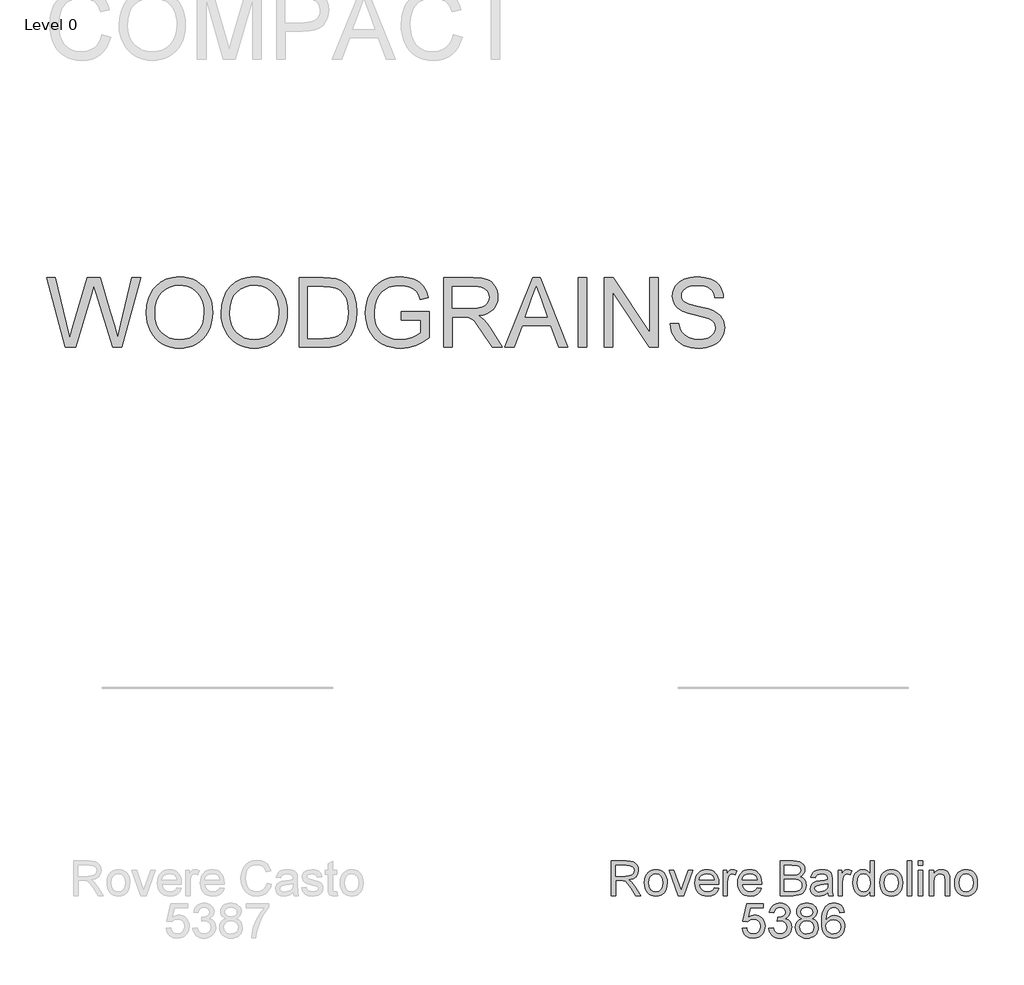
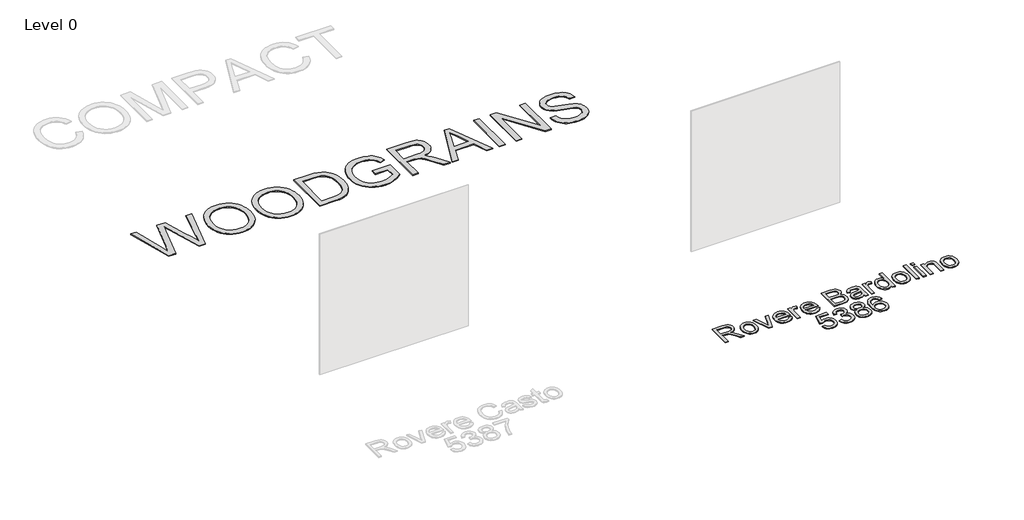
# One storey, part 8 of 16: 2 proxies.
"""IFC4 building model written with IfcOpenShell, lengths in millimetres."""

from ifc_helpers import new_model, si_unit, origin, origin_with_axes, place, context, project, spatial, polyline, outline, extrude, element, save

model = new_model("IFC4")

# Units and contexts
model_context = context("Model", 3, world=origin())
ifc_project = project(units=[si_unit("LENGTHUNIT", "METRE", prefix="MILLI")], contexts=[model_context])

# Site, building, storey
site = spatial("IfcSite", under=ifc_project)
building = spatial("IfcBuilding", under=site)
storey = spatial("IfcBuildingStorey", under=building, Name="Level 0", Elevation=0.0)

# Proxies
placement = place(None, origin())
element("IfcBuildingElementProxy", 1, Name="300mm Arial", ObjectType="300mm Arial", at=placement, inside=storey, context=model_context, shape_type="SweptSolid", body=[
    extrude(outline(polyline([(-6030.4904964, -7002.860494), (-6030.4904964, -6701.4915635), (-5900.6281521, -6701.4915635), (-5865.7253478, -6703.5241116), (-5840.3322931, -6709.6217556), (-5821.7726464, -6720.8789447), (-5807.3700663, -6738.3901276), (-5798.1270312, -6760.1043624), (-5795.0460195, -6783.9707069), (-5800.1503822, -6813.6587839), (-5815.4634702, -6838.2700893), (-5827.0632494, -6848.2994722), (-5841.4451361, -6856.3147012), (-5878.5552324, -6866.3026974), (-5857.1445003, -6882.4159288), (-5826.6102947, -6921.1906911), (-5776.3576141, -7002.860494), (-5820.1355716, -7002.860494), (-5859.3517922, -6940.3941312), (-5887.6787059, -6899.0441949), (-5907.5811218, -6879.509661), (-5925.496975, -6872.3359621), (-5947.3491655, -6871.0115869), (-5992.8193801, -6871.0115869), (-5992.8193801, -7002.860494), (-6030.4904964, -7002.860494)]), holes=[polyline([(-5992.8193801, -6833.3404706), (-5908.5008268, -6833.3404706), (-5884.2849945, -6832.0068984), (-5865.4954216, -6828.0061817), (-5851.3503588, -6821.0716061), (-5841.0680571, -6810.9364571), (-5834.8048661, -6798.6767896), (-5832.7171358, -6785.3686584), (-5836.6994584, -6766.9929528), (-5848.6464262, -6752.1857025), (-5869.2018327, -6742.4184355), (-5899.0094713, -6739.1626798), (-5992.8193801, -6739.1626798), (-5992.8193801, -6833.3404706)])]), origin_with_axes(), (0.0, 0.0, 1.0), 10.0),
    extrude(outline(polyline([(-5743.2482346, -6892.2015898), (-5741.211088, -6863.5389839), (-5735.0996484, -6838.8403064), (-5724.9139156, -6818.1055575), (-5710.6538898, -6801.334737), (-5696.2972949, -6790.6155754), (-5680.450778, -6782.9590314), (-5663.114339, -6778.3651049), (-5644.2879779, -6776.8337961), (-5623.5049444, -6778.698498), (-5604.7130722, -6784.2926036), (-5587.9123614, -6793.6161129), (-5573.1028118, -6806.669026), (-5561.015589, -6823.0098843), (-5552.3818584, -6842.1972296), (-5547.2016201, -6864.2310619), (-5545.474874, -6889.1113811), (-5548.5282945, -6927.1687735), (-5557.6885562, -6956.1394806), (-5572.6889445, -6977.8353213), (-5593.2627451, -6994.0681143), (-5617.6993067, -7004.1940662), (-5644.2879779, -7007.5693835), (-5665.374514, -7005.7115794), (-5684.3411301, -7000.1381672), (-5701.1878262, -6990.8491468), (-5715.9146023, -6977.8445183), (-5727.8730664, -6961.3450108), (-5736.4148265, -6941.5713536), (-5741.5398825, -6918.5235466), (-5743.2482346, -6892.2015898)]), holes=[polyline([(-5705.5771183, -6892.1280134), (-5701.2177166, -6926.2214773), (-5688.1395117, -6950.5108861), (-5668.4578249, -6965.0514219), (-5644.2879779, -6969.8982672), (-5620.2284954, -6965.0238308), (-5600.5835968, -6950.4005215), (-5587.5053919, -6925.789216), (-5583.1459903, -6890.950791), (-5587.5329831, -6857.8506085), (-5600.6939614, -6833.8922936), (-5620.3664511, -6819.3517577), (-5644.2879779, -6814.5049125), (-5668.4578249, -6819.3333636), (-5688.1395117, -6833.8187172), (-5701.2177166, -6858.0529436), (-5705.5771183, -6892.1280134)])]), origin_with_axes(), (0.0, 0.0, 1.0), 10.0),
    extrude(outline(polyline([(-5448.7954856, -7002.860494), (-5526.6393158, -6781.5426857), (-5486.7609075, -6781.5426857), (-5439.5984357, -6914.1273567), (-5425.3981907, -6958.7146546), (-5411.4922513, -6916.6289543), (-5364.0354739, -6781.5426857), (-5324.1570657, -6781.5426857), (-5401.0444026, -7002.860494), (-5448.7954856, -7002.860494)])), origin_with_axes(), (0.0, 0.0, 1.0), 10.0),
    extrude(outline(polyline([(-5136.2429425, -6936.9360404), (-5099.3075902, -6941.64493), (-5112.6157214, -6969.4752029), (-5133.8517096, -6990.2789297), (-5162.5373081, -7003.2467701), (-5198.1942705, -7007.5693835), (-5221.5685728, -7005.7046817), (-5242.3952922, -7000.1105761), (-5260.6744289, -6990.7870668), (-5276.4059827, -6977.7341537), (-5289.0565248, -6961.3151204), (-5298.0926263, -6941.8932503), (-5303.5142872, -6919.4685435), (-5305.3215075, -6894.0409998), (-5303.4958931, -6867.7512327), (-5298.0190499, -6844.5792656), (-5288.8909779, -6824.5250983), (-5276.1116771, -6807.5887309), (-5260.42151, -6794.133447), (-5242.5608391, -6784.5225298), (-5222.5296645, -6778.7559796), (-5200.3279861, -6776.8337961), (-5178.8413783, -6778.751381), (-5159.4103112, -6784.5041357), (-5142.0347847, -6794.0920602), (-5126.7147988, -6807.5151545), (-5114.2091103, -6824.4147337), (-5105.2764756, -6844.4321128), (-5099.9168948, -6867.5672917), (-5098.1303678, -6893.8202706), (-5098.351097, -6903.9738137), (-5267.6503912, -6903.9738137), (-5261.1296828, -6932.1719686), (-5245.9821417, -6952.902119), (-5224.1207541, -6965.6492302), (-5197.4585065, -6969.8982672), (-5177.4089378, -6967.9300985), (-5160.5231542, -6962.0255925), (-5146.8011558, -6951.8168672), (-5136.2429425, -6936.9360404)]), holes=[polyline([(-5267.6503912, -6866.3026974), (-5135.8014841, -6866.3026974), (-5140.8966498, -6846.4002814), (-5150.8846459, -6832.1632482), (-5172.847201, -6818.9194964), (-5200.4751389, -6814.5049125), (-5225.8681936, -6818.0273826), (-5246.8650585, -6828.5947929), (-5261.4607766, -6845.0667092), (-5267.6503912, -6866.3026974)])]), origin_with_axes(), (0.0, 0.0, 1.0), 10.0),
    extrude(outline(polyline([(-5060.4592515, -7002.860494), (-5060.4592515, -6781.5426857), (-5027.4970247, -6781.5426857), (-5027.4970247, -6814.2841833), (-5015.3201307, -6795.3014723), (-5004.0997299, -6784.1178596), (-4992.8425408, -6778.654812), (-4980.5552822, -6776.8337961), (-4961.7933004, -6779.7400639), (-4942.7370131, -6788.4588672), (-4955.3185773, -6822.2304343), (-4968.5623291, -6816.4362929), (-4981.8060809, -6814.5049125), (-4993.0540729, -6816.3627165), (-5003.1064485, -6821.9361288), (-5011.2274435, -6830.8020848), (-5016.6812941, -6842.5375205), (-5021.2614249, -6863.5803706), (-5022.7881352, -6886.5362071), (-5022.7881352, -7002.860494), (-5060.4592515, -7002.860494)])), origin_with_axes(), (0.0, 0.0, 1.0), 10.0),
    extrude(outline(polyline([(-4764.240669, -6936.9360404), (-4727.3053167, -6941.64493), (-4740.6134479, -6969.4752029), (-4761.849436, -6990.2789297), (-4790.5350346, -7003.2467701), (-4826.191997, -7007.5693835), (-4849.5662993, -7005.7046817), (-4870.3930187, -7000.1105761), (-4888.6721553, -6990.7870668), (-4904.4037092, -6977.7341537), (-4917.0542513, -6961.3151204), (-4926.0903528, -6941.8932503), (-4931.5120137, -6919.4685435), (-4933.319234, -6894.0409998), (-4931.4936196, -6867.7512327), (-4926.0167764, -6844.5792656), (-4916.8887044, -6824.5250983), (-4904.1094036, -6807.5887309), (-4888.4192365, -6794.133447), (-4870.5585656, -6784.5225298), (-4850.527391, -6778.7559796), (-4828.3257126, -6776.8337961), (-4806.8391048, -6778.751381), (-4787.4080376, -6784.5041357), (-4770.0325112, -6794.0920602), (-4754.7125253, -6807.5151545), (-4742.2068367, -6824.4147337), (-4733.2742021, -6844.4321128), (-4727.9146212, -6867.5672917), (-4726.1280943, -6893.8202706), (-4726.3488235, -6903.9738137), (-4895.6481177, -6903.9738137), (-4889.1274093, -6932.1719686), (-4873.9798682, -6952.902119), (-4852.1184806, -6965.6492302), (-4825.456233, -6969.8982672), (-4805.4066643, -6967.9300985), (-4788.5208807, -6962.0255925), (-4774.7988823, -6951.8168672), (-4764.240669, -6936.9360404)]), holes=[polyline([(-4895.6481177, -6866.3026974), (-4763.7992106, -6866.3026974), (-4768.8943762, -6846.4002814), (-4778.8823724, -6832.1632482), (-4800.8449275, -6818.9194964), (-4828.4728654, -6814.5049125), (-4853.8659201, -6818.0273826), (-4874.8627849, -6828.5947929), (-4889.4585031, -6845.0667092), (-4895.6481177, -6866.3026974)])]), origin_with_axes(), (0.0, 0.0, 1.0), 10.0),
    extrude(outline(polyline([(-4566.02585, -7002.860494), (-4566.02585, -6701.4915635), (-4451.0259383, -6701.4915635), (-4419.3972838, -6703.7080526), (-4394.7032048, -6710.3575196), (-4375.7756762, -6721.6055116), (-4361.4466725, -6737.6175755), (-4352.4243665, -6756.4531336), (-4349.4169312, -6776.1716086), (-4351.94612, -6794.317388), (-4359.5336861, -6811.3779155), (-4372.234812, -6826.3047274), (-4390.1046799, -6838.0493601), (-4368.7583271, -6849.1961846), (-4352.9853866, -6866.1555446), (-4343.2457108, -6887.8054), (-4339.9991522, -6913.0237108), (-4342.2156412, -6934.0389697), (-4348.8651082, -6953.5275184), (-4358.7887251, -6970.1006023), (-4370.8276634, -6982.3694669), (-4385.5705343, -6991.253817), (-4403.6059491, -6997.6733578), (-4451.9088551, -7002.860494), (-4566.02585, -7002.860494)]), holes=[polyline([(-4528.3547337, -6823.9226915), (-4459.5608006, -6823.9226915), (-4419.3880867, -6820.68533), (-4405.3257975, -6815.1027207), (-4395.2182396, -6806.7426024), (-4389.1205956, -6795.7337336), (-4387.0880475, -6782.2048733), (-4388.9826398, -6769.071486), (-4394.6664166, -6757.630356), (-4403.8818606, -6748.7000206), (-4416.3714544, -6743.0990172), (-4464.7847249, -6739.1626798), (-4528.3547337, -6739.1626798), (-4528.3547337, -6823.9226915)]), polyline([(-4528.3547337, -6965.1893777), (-4451.0995147, -6965.1893777), (-4423.1404831, -6963.7178497), (-4399.4856708, -6955.5140812), (-4383.8138978, -6938.7754504), (-4379.2061758, -6926.9480443), (-4377.6702685, -6913.3915928), (-4379.4728902, -6897.6462434), (-4384.8807556, -6884.1081859), (-4394.3261258, -6873.5223815), (-4408.2412623, -6866.6337912), (-4427.9505402, -6862.8538037), (-4454.7783347, -6861.5938078), (-4528.3547337, -6861.5938078), (-4528.3547337, -6965.1893777)])]), origin_with_axes(), (0.0, 0.0, 1.0), 10.0),
    extrude(outline(polyline([(-4151.6435706, -6974.6071568), (-4169.6421972, -6990.0398064), (-4188.1742527, -7000.1381672), (-4207.6628014, -7005.7115794), (-4228.5309076, -7007.5693835), (-4260.0124094, -7003.0996173), (-4283.2349603, -6989.6903186), (-4297.554767, -6969.3280501), (-4302.3280359, -6943.9993748), (-4300.5254141, -6928.3827841), (-4295.1175487, -6914.2009331), (-4286.7758245, -6902.0608273), (-4276.171626, -6892.5694718), (-4249.7944869, -6880.2086368), (-4217.2001422, -6874.5432541), (-4178.6828973, -6868.5835657), (-4151.8642998, -6861.5938078), (-4151.6435706, -6853.2060983), (-4154.2371387, -6836.3938912), (-4162.0178429, -6825.3942195), (-4179.4186613, -6817.2272392), (-4203.6620847, -6814.5049125), (-4226.1028865, -6816.3167313), (-4241.7746594, -6821.7521878), (-4252.4616314, -6831.8045633), (-4259.94803, -6847.4671392), (-4297.6191463, -6842.7582497), (-4291.0800438, -6822.156858), (-4281.3219739, -6805.9700502), (-4267.4344286, -6793.590821), (-4248.5069, -6784.4121652), (-4225.3579254, -6778.7283884), (-4198.8060424, -6776.8337961), (-4173.3394113, -6778.5076592), (-4153.1518868, -6783.5292485), (-4137.9307693, -6791.0800264), (-4127.3633589, -6800.3414556), (-4120.3552069, -6811.7917827), (-4115.8118643, -6825.9092543), (-4113.9724543, -6858.8714811), (-4113.9724543, -6905.7396473), (-4112.0594679, -6971.1858542), (-4104.5546752, -7002.860494), (-4142.2257916, -7002.860494), (-4151.6435706, -6974.6071568)]), holes=[polyline([(-4151.6435706, -6899.2649241), (-4212.4176762, -6910.8164188), (-4244.82808, -6916.9232599), (-4259.5065716, -6926.8560738), (-4264.6569195, -6941.3506244), (-4261.8518193, -6952.5526311), (-4253.4365187, -6961.7312869), (-4239.5949586, -6967.8565221), (-4220.5110801, -6969.8982672), (-4200.2775704, -6967.64499), (-4182.3985054, -6960.8851583), (-4167.9039548, -6950.9247533), (-4157.8239881, -6939.069756), (-4153.3542219, -6926.8560738), (-4151.8642998, -6909.933502), (-4151.6435706, -6899.2649241)])]), origin_with_axes(), (0.0, 0.0, 1.0), 10.0),
    extrude(outline(polyline([(-4062.1746694, -7002.860494), (-4062.1746694, -6781.5426857), (-4029.2124426, -6781.5426857), (-4029.2124426, -6814.2841833), (-4017.0355486, -6795.3014723), (-4005.8151477, -6784.1178596), (-3994.5579587, -6778.654812), (-3982.2707, -6776.8337961), (-3963.5087183, -6779.7400639), (-3944.4524309, -6788.4588672), (-3957.0339952, -6822.2304343), (-3970.277747, -6816.4362929), (-3983.5214988, -6814.5049125), (-3994.7694908, -6816.3627165), (-4004.8218664, -6821.9361288), (-4012.9428614, -6830.8020848), (-4018.396712, -6842.5375205), (-4022.9768428, -6863.5803706), (-4024.5035531, -6886.5362071), (-4024.5035531, -7002.860494), (-4062.1746694, -7002.860494)])), origin_with_axes(), (0.0, 0.0, 1.0), 10.0),
    extrude(outline(polyline([(-3784.3501866, -7002.860494), (-3784.3501866, -6967.3230932), (-3795.6211713, -6984.9308452), (-3809.2741918, -6997.507811), (-3825.3092483, -7005.0539904), (-3843.7263407, -7007.5693835), (-3868.0801287, -7003.9273518), (-3890.3737777, -6993.0012565), (-3909.246124, -6975.5544529), (-3923.3360044, -6952.350296), (-3932.10999, -6924.3268851), (-3935.0346519, -6892.422319), (-3932.3399163, -6860.9132261), (-3924.2557094, -6832.4575538), (-3910.7912284, -6808.6739828), (-3891.9556702, -6791.181194), (-3869.1745777, -6780.4206456), (-3843.8734935, -6776.8337961), (-3825.4426055, -6779.3997731), (-3809.1454331, -6787.0977038), (-3795.3314642, -6798.8975188), (-3784.3501866, -6813.7691485), (-3784.3501866, -6701.4915635), (-3746.6790703, -6701.4915635), (-3746.6790703, -7002.860494), (-3784.3501866, -7002.860494)]), holes=[polyline([(-3897.3635356, -6892.2751662), (-3893.1144985, -6926.350236), (-3880.3673874, -6950.5844625), (-3861.8445289, -6965.069816), (-3840.2682499, -6969.8982672), (-3818.7011679, -6965.2905452), (-3800.647359, -6951.4673793), (-3788.4244797, -6928.1712519), (-3784.3501866, -6895.1446458), (-3788.4980561, -6859.037028), (-3800.9416646, -6834.0026582), (-3819.455326, -6819.3793489), (-3841.8133543, -6814.5049125), (-3863.6103625, -6819.1862108), (-3881.4710334, -6833.230106), (-3893.39041, -6857.3539678), (-3897.3635356, -6892.2751662)])]), origin_with_axes(), (0.0, 0.0, 1.0), 10.0),
    extrude(outline(polyline([(-3699.590175, -6892.2015898), (-3697.5530284, -6863.5389839), (-3691.4415888, -6838.8403064), (-3681.255856, -6818.1055575), (-3666.9958302, -6801.334737), (-3652.6392353, -6790.6155754), (-3636.7927184, -6782.9590314), (-3619.4562794, -6778.3651049), (-3600.6299183, -6776.8337961), (-3579.8468848, -6778.698498), (-3561.0550126, -6784.2926036), (-3544.2543018, -6793.6161129), (-3529.4447522, -6806.669026), (-3517.3575294, -6823.0098843), (-3508.7237988, -6842.1972296), (-3503.5435605, -6864.2310619), (-3501.8168143, -6889.1113811), (-3504.8702349, -6927.1687735), (-3514.0304966, -6956.1394806), (-3529.0308849, -6977.8353213), (-3549.6046855, -6994.0681143), (-3574.0412471, -7004.1940662), (-3600.6299183, -7007.5693835), (-3621.7164544, -7005.7115794), (-3640.6830705, -7000.1381672), (-3657.5297666, -6990.8491468), (-3672.2565427, -6977.8445183), (-3684.2150068, -6961.3450108), (-3692.7567669, -6941.5713536), (-3697.8818229, -6918.5235466), (-3699.590175, -6892.2015898)]), holes=[polyline([(-3661.9190586, -6892.1280134), (-3657.559657, -6926.2214773), (-3644.4814521, -6950.5108861), (-3624.7997653, -6965.0514219), (-3600.6299183, -6969.8982672), (-3576.5704358, -6965.0238308), (-3556.9255372, -6950.4005215), (-3543.8473323, -6925.789216), (-3539.4879307, -6890.950791), (-3543.8749234, -6857.8506085), (-3557.0359018, -6833.8922936), (-3576.7083915, -6819.3517577), (-3600.6299183, -6814.5049125), (-3624.7997653, -6819.3333636), (-3644.4814521, -6833.8187172), (-3657.559657, -6858.0529436), (-3661.9190586, -6892.1280134)])]), origin_with_axes(), (0.0, 0.0, 1.0), 10.0),
    extrude(outline(polyline([(-3459.4368085, -7002.860494), (-3459.4368085, -6701.4915635), (-3421.7656922, -6701.4915635), (-3421.7656922, -7002.860494), (-3459.4368085, -7002.860494)])), origin_with_axes(), (0.0, 0.0, 1.0), 10.0),
    extrude(outline(polyline([(-3365.2590177, -6739.1626798), (-3365.2590177, -6701.4915635), (-3327.5879014, -6701.4915635), (-3327.5879014, -6739.1626798), (-3365.2590177, -6739.1626798)])), origin_with_axes(), (0.0, 0.0, 1.0), 10.0),
    extrude(outline(polyline([(-3365.2590177, -7002.860494), (-3365.2590177, -6781.5426857), (-3327.5879014, -6781.5426857), (-3327.5879014, -7002.860494), (-3365.2590177, -7002.860494)])), origin_with_axes(), (0.0, 0.0, 1.0), 10.0),
    extrude(outline(polyline([(-3271.081227, -7002.860494), (-3271.081227, -6781.5426857), (-3233.4101107, -6781.5426857), (-3233.4101107, -6812.4447733), (-3220.3227087, -6796.8649708), (-3204.6049504, -6785.7365404), (-3186.2568359, -6779.0594822), (-3165.2783652, -6776.8337961), (-3146.7095215, -6778.6272209), (-3129.7041762, -6784.0074951), (-3115.5223253, -6792.303234), (-3105.4239645, -6802.8430532), (-3094.1299873, -6830.5445674), (-3092.1434245, -6866.964885), (-3092.1434245, -7002.860494), (-3129.8145408, -7002.860494), (-3129.8145408, -6872.0416565), (-3134.1555484, -6838.7115477), (-3140.1612219, -6828.7879309), (-3149.4962276, -6821.0900002), (-3161.4615895, -6816.1511844), (-3175.3583318, -6814.5049125), (-3197.4220545, -6818.2021265), (-3216.2300215, -6829.2937687), (-3223.7463105, -6838.3482643), (-3229.1150884, -6850.7228949), (-3233.4101107, -6885.4325611), (-3233.4101107, -7002.860494), (-3271.081227, -7002.860494)])), origin_with_axes(), (0.0, 0.0, 1.0), 10.0),
    extrude(outline(polyline([(-3049.7634187, -6892.2015898), (-3047.7262721, -6863.5389839), (-3041.6148325, -6838.8403064), (-3031.4290997, -6818.1055575), (-3017.1690739, -6801.334737), (-3002.812479, -6790.6155754), (-2986.9659621, -6782.9590314), (-2969.6295231, -6778.3651049), (-2950.803162, -6776.8337961), (-2930.0201285, -6778.698498), (-2911.2282563, -6784.2926036), (-2894.4275455, -6793.6161129), (-2879.6179959, -6806.669026), (-2867.5307731, -6823.0098843), (-2858.8970425, -6842.1972296), (-2853.7168042, -6864.2310619), (-2851.9900581, -6889.1113811), (-2855.0434786, -6927.1687735), (-2864.2037403, -6956.1394806), (-2879.2041287, -6977.8353213), (-2899.7779292, -6994.0681143), (-2924.2144908, -7004.1940662), (-2950.803162, -7007.5693835), (-2971.8896981, -7005.7115794), (-2990.8563142, -7000.1381672), (-3007.7030103, -6990.8491468), (-3022.4297864, -6977.8445183), (-3034.3882505, -6961.3450108), (-3042.9300106, -6941.5713536), (-3048.0550667, -6918.5235466), (-3049.7634187, -6892.2015898)]), holes=[polyline([(-3012.0923024, -6892.1280134), (-3007.7329007, -6926.2214773), (-2994.6546958, -6950.5108861), (-2974.9730091, -6965.0514219), (-2950.803162, -6969.8982672), (-2926.7436795, -6965.0238308), (-2907.0987809, -6950.4005215), (-2894.020576, -6925.789216), (-2889.6611744, -6890.950791), (-2894.0481672, -6857.8506085), (-2907.2091455, -6833.8922936), (-2926.8816352, -6819.3517577), (-2950.803162, -6814.5049125), (-2974.9730091, -6819.3333636), (-2994.6546958, -6833.8187172), (-3007.7329007, -6858.0529436), (-3012.0923024, -6892.1280134)])]), origin_with_axes(), (0.0, 0.0, 1.0), 10.0),
    extrude(outline(polyline([(-4893.2936729, -7288.7338254), (-4855.6225566, -7284.0249358), (-4848.7063751, -7306.6404815), (-4836.6398456, -7322.8364863), (-4819.4781506, -7332.5761621), (-4797.2764722, -7335.8227207), (-4770.2739337, -7331.3069693), (-4750.040424, -7317.7597148), (-4737.4036774, -7296.7444558), (-4733.1914286, -7269.8246908), (-4737.136963, -7244.4776213), (-4748.9735662, -7225.0902402), (-4768.7932087, -7212.7845875), (-4796.687861, -7208.6827032), (-4814.9623991, -7210.3197781), (-4829.7604523, -7215.2310027), (-4850.9136671, -7232.2271509), (-4888.5847834, -7227.5182614), (-4855.6225566, -7072.1249066), (-4709.6469809, -7072.1249066), (-4709.6469809, -7109.7960229), (-4825.1619274, -7109.7960229), (-4841.2751588, -7192.790201), (-4814.3645908, -7176.4562404), (-4786.1664359, -7171.0115869), (-4767.8206207, -7172.6992456), (-4750.969326, -7177.7622215), (-4735.612552, -7186.2005148), (-4721.7502986, -7198.0141254), (-4710.2746796, -7212.4810848), (-4702.0778089, -7228.8794248), (-4697.1596864, -7247.2091452), (-4695.5203123, -7267.470246), (-4701.4248183, -7305.1413624), (-4708.8054508, -7321.9351754), (-4719.1383364, -7337.3678251), (-4734.7917153, -7353.1729553), (-4753.0570563, -7364.4623341), (-4773.9343596, -7371.2359613), (-4797.423625, -7373.4938371), (-4834.4233566, -7367.6904986), (-4850.1020274, -7360.4363255), (-4863.8999015, -7350.2804832), (-4875.380119, -7337.7288093), (-4884.1058201, -7323.2871418), (-4893.2936729, -7288.7338254)])), origin_with_axes(), (0.0, 0.0, 1.0), 10.0),
    extrude(outline(polyline([(-4662.5580855, -7288.7338254), (-4624.8869692, -7284.0249358), (-4616.4532745, -7307.6981422), (-4604.1016365, -7323.6826149), (-4587.22505, -7332.7876943), (-4565.2165096, -7335.8227207), (-4539.3911935, -7331.6472601), (-4519.4519894, -7319.1208782), (-4506.7048783, -7300.4324728), (-4502.4558412, -7277.7709419), (-4506.6680901, -7256.2590422), (-4519.3048366, -7238.8122386), (-4538.4347004, -7227.2515469), (-4562.1263008, -7223.397983), (-4588.5402281, -7227.5182614), (-4584.3463734, -7189.8471451), (-4578.3131086, -7190.2886035), (-4555.7435482, -7187.5846708), (-4535.5652208, -7179.4728728), (-4521.3281876, -7165.7508744), (-4516.5825098, -7146.2163404), (-4520.0222065, -7129.9467592), (-4530.3412965, -7116.7489926), (-4546.0866459, -7108.0025982), (-4565.8051208, -7105.0871334), (-4585.5603839, -7108.0301893), (-4601.7104035, -7116.8593572), (-4613.5010215, -7131.574637), (-4620.1780797, -7152.1760288), (-4657.849196, -7147.4671392), (-4646.7575538, -7113.6403898), (-4627.0206848, -7088.3852908), (-4600.0181463, -7072.6583355), (-4567.129496, -7067.4160171), (-4543.4470925, -7070.0003881), (-4521.6960696, -7077.7535011), (-4503.3571521, -7089.9855775), (-4489.9110652, -7106.0068384), (-4481.6613115, -7124.4653175), (-4478.9113935, -7144.0090485), (-4481.5233557, -7162.2192072), (-4489.3592422, -7178.7371088), (-4502.3086884, -7192.8085951), (-4520.2613298, -7203.6795081), (-4496.6800939, -7213.2076518), (-4479.2056991, -7229.4312477), (-4468.3899685, -7251.4673793), (-4464.7847249, -7278.4331295), (-4466.5873467, -7297.5445992), (-4471.995212, -7315.1477526), (-4481.0083209, -7331.2425899), (-4493.6266733, -7345.829111), (-4508.9995422, -7357.9324287), (-4526.2762004, -7366.5776555), (-4545.4566479, -7371.7647917), (-4566.5408848, -7373.4938371), (-4585.5971721, -7372.0177105), (-4602.9612023, -7367.589331), (-4618.6329753, -7360.2086985), (-4632.6124911, -7349.875813), (-4644.3341312, -7337.1976797), (-4653.232277, -7322.781304), (-4659.3069284, -7306.6266859), (-4662.5580855, -7288.7338254)])), origin_with_axes(), (0.0, 0.0, 1.0), 10.0),
    extrude(outline(polyline([(-4376.9345045, -7202.7965913), (-4397.1036349, -7192.8637774), (-4411.2578946, -7179.3992964), (-4419.618013, -7162.6790597), (-4422.4047191, -7142.9789789), (-4420.8872058, -7127.6153071), (-4416.3346662, -7113.5300252), (-4408.7471, -7100.7231332), (-4398.1245074, -7089.1946312), (-4384.9773246, -7079.6664875), (-4369.8159879, -7072.8606706), (-4333.4508526, -7067.4160171), (-4296.8649882, -7072.9894293), (-4281.5381046, -7079.9561946), (-4268.1885867, -7089.709666), (-4257.372856, -7101.4634957), (-4249.6473341, -7114.4313361), (-4245.012021, -7128.613187), (-4243.4669166, -7144.0090485), (-4246.2168345, -7163.0745329), (-4254.4665883, -7179.509661), (-4268.3081483, -7192.8913686), (-4287.8334852, -7202.7965913), (-4264.6477225, -7214.7435591), (-4247.771136, -7232.3375155), (-4237.4796372, -7254.732332), (-4234.0491375, -7281.0818799), (-4235.7505918, -7299.8714528), (-4240.8549545, -7317.0975272), (-4249.3622256, -7332.7601031), (-4261.2724052, -7346.8591806), (-4275.9600938, -7358.5118428), (-4292.7998922, -7366.8351729), (-4311.7918002, -7371.829171), (-4332.9358179, -7373.4938371), (-4354.0798355, -7371.8222732), (-4373.0717435, -7366.8075818), (-4389.9115419, -7358.4497627), (-4404.5992305, -7346.748816), (-4416.5094101, -7332.5508703), (-4425.0166812, -7316.702054), (-4430.1210439, -7299.2023674), (-4431.8224982, -7280.0518103), (-4428.2540428, -7252.6813898), (-4417.5486767, -7230.1670117), (-4400.258223, -7213.2812282), (-4376.9345045, -7202.7965913)]), holes=[polyline([(-4394.1513818, -7278.7274351), (-4387.8605997, -7307.0911369), (-4379.1509935, -7319.2588339), (-4365.603739, -7328.317928), (-4349.380143, -7333.9465226), (-4332.6415123, -7335.8227207), (-4307.0001372, -7331.8771864), (-4287.7599088, -7320.0405832), (-4275.7301676, -7302.1155329), (-4271.7202539, -7279.9046575), (-4275.8589263, -7257.316703), (-4288.2749436, -7238.9961796), (-4307.9566304, -7226.8560738), (-4333.892311, -7222.8093718), (-4359.1750012, -7226.8008915), (-4378.2220915, -7238.7754504), (-4390.1690593, -7256.7464859), (-4394.1513818, -7278.7274351)]), polyline([(-4384.7336028, -7144.0826249), (-4381.3950737, -7160.52695), (-4371.3794863, -7173.6603373), (-4354.9811464, -7182.268776), (-4332.4943595, -7185.1382555), (-4310.5318043, -7182.2871701), (-4294.3817848, -7173.7339137), (-4284.4489709, -7161.0419848), (-4281.1380329, -7145.774882), (-4284.5593355, -7129.9283651), (-4294.8232432, -7116.822569), (-4311.1939919, -7108.0209923), (-4332.9358179, -7105.0871334), (-4354.8155995, -7107.9566129), (-4371.1587571, -7116.5650516), (-4381.3398914, -7129.1834041), (-4384.7336028, -7144.0826249)])]), origin_with_axes(), (0.0, 0.0, 1.0), 10.0),
    extrude(outline(polyline([(-4008.0224397, -7147.4671392), (-4045.693556, -7152.1760288), (-4051.7636089, -7133.5060175), (-4059.9673774, -7120.7589064), (-4077.0554961, -7109.0050766), (-4097.7120701, -7105.0871334), (-4115.2232531, -7107.3680017), (-4131.7043665, -7114.2106069), (-4145.8586263, -7128.622384), (-4157.419318, -7148.4604206), (-4165.2276133, -7176.5206198), (-4168.124684, -7215.5988847), (-4153.0139311, -7197.9681401), (-4134.9049398, -7185.5429257), (-4114.8093859, -7178.1760888), (-4093.7389446, -7175.7204764), (-4075.6391504, -7177.3989381), (-4058.9373078, -7182.4343229), (-4043.6334168, -7190.8266309), (-4029.7274774, -7202.5758621), (-4018.1713843, -7216.9830407), (-4009.917032, -7233.349191), (-4004.9644206, -7251.6743129), (-4003.3135502, -7271.9584064), (-4006.422153, -7298.9333537), (-4015.7479616, -7323.9401323), (-4030.5184237, -7345.1485293), (-4049.9609872, -7360.7283318), (-4073.1927352, -7370.3024607), (-4099.3307509, -7373.4938371), (-4121.7876475, -7371.3785156), (-4142.0694417, -7365.0325512), (-4160.1761337, -7354.4559438), (-4176.1077233, -7339.6486935), (-4189.096257, -7319.9854009), (-4198.3737811, -7294.8406665), (-4203.9402955, -7264.2144904), (-4205.7958003, -7228.1068726), (-4203.7356611, -7187.6260575), (-4197.5552436, -7153.0773396), (-4187.2545478, -7124.4607189), (-4172.8335735, -7101.7761954), (-4157.2031873, -7086.7436174), (-4139.0804005, -7076.0060617), (-4118.4652132, -7069.5635282), (-4095.3576254, -7067.4160171), (-4062.3034281, -7072.7319119), (-4035.8343185, -7088.6795964), (-4017.293066, -7114.0082718), (-4008.0224397, -7147.4671392)]), holes=[polyline([(-4168.124684, -7271.3697952), (-4165.9449832, -7288.0624407), (-4159.4058807, -7304.0009282), (-4149.2523377, -7317.7045325), (-4136.229315, -7327.6925287), (-4120.5115568, -7333.7901727), (-4102.2738069, -7335.8227207), (-4077.4141811, -7331.6104719), (-4057.8704501, -7318.9737254), (-4045.2061124, -7299.1080976), (-4040.9846665, -7273.2092052), (-4045.1509301, -7248.3495793), (-4057.6497209, -7229.3944595), (-4077.5245456, -7217.3923095), (-4103.8189113, -7213.3915928), (-4128.6417489, -7217.3923095), (-4149.3994905, -7229.3944595), (-4163.4433856, -7247.8897269), (-4168.124684, -7271.3697952)])]), origin_with_axes(), (0.0, 0.0, 1.0), 10.0),
])
element("IfcBuildingElementProxy", 2, Name="600mm Arial", ObjectType="600mm Arial", at=placement, inside=storey, context=model_context, shape_type="SweptSolid", body=[
    extrude(outline(polyline([(-10769.6001843, -2239.8720473), (-10933.9698597, -1637.1341864), (-10856.2731823, -1637.1341864), (-10760.9181692, -2033.2695188), (-10731.4876096, -2155.553494), (-10699.9969108, -2047.3961875), (-10580.5088387, -1637.1341864), (-10468.5255594, -1637.1341864), (-10381.7054085, -1934.5299913), (-10344.5125388, -2044.8945899), (-10317.1053302, -2155.553494), (-10288.5576874, -2036.801186), (-10192.3197574, -1637.1341864), (-10114.62308, -1637.1341864), (-10279.1399083, -2239.8720473), (-10359.6324888, -2239.8720473), (-10504.1365365, -1774.8692054), (-10524.2964699, -1709.9748215), (-10546.9580008, -1788.1129573), (-10678.659755, -2239.8720473), (-10769.6001843, -2239.8720473)])), origin_with_axes(), (0.0, 0.0, 1.0), 10.0),
    extrude(outline(polyline([(-10067.5341847, -1946.449368), (-10062.5125954, -1875.7516456), (-10047.4478277, -1813.1657211), (-10022.3398816, -1758.6915947), (-10006.0197165, -1734.4964557), (-9987.1887569, -1712.3292662), (-9944.1005782, -1675.3111405), (-9895.1814699, -1648.8696221), (-9840.431432, -1633.004711), (-9779.8504644, -1627.7164074), (-9739.3006715, -1630.1996108), (-9700.7926237, -1637.6492212), (-9664.3263209, -1650.0652386), (-9629.9017632, -1667.4476628), (-9598.4846408, -1689.2722622), (-9571.040644, -1715.0148048), (-9547.5697727, -1744.6752907), (-9528.0720269, -1778.2537198), (-9512.7497418, -1814.986737), (-9501.8052525, -1854.1109872), (-9495.2385589, -1895.6264703), (-9493.049661, -1939.5331865), (-9495.353522, -1984.0193167), (-9502.265105, -2026.0958199), (-9513.7844099, -2065.7626961), (-9529.9114369, -2103.0199451), (-9550.2645083, -2136.8834828), (-9574.4619465, -2166.3692247), (-9602.5037516, -2191.4771709), (-9634.3899235, -2212.2073213), (-9668.865065, -2228.4309173), (-9704.6737787, -2240.0192001), (-9741.8160647, -2246.9721698), (-9780.2919228, -2249.2898264), (-9821.5498886, -2246.728448), (-9860.5637742, -2239.0443128), (-9897.3335796, -2226.2374209), (-9931.8593048, -2208.3077721), (-9963.239639, -2185.9497439), (-9990.5732713, -2159.8577134), (-10013.8602016, -2130.0316806), (-10033.1004299, -2096.4716456), (-10048.1651976, -2060.5249762), (-10058.925746, -2023.5390401), (-10065.382075, -1985.5138373), (-10067.5341847, -1946.449368)]), holes=[polyline([(-9992.191952, -1947.185132), (-9988.4257601, -1997.1343099), (-9977.1271843, -2041.4732873), (-9958.2962247, -2080.2020644), (-9931.9328812, -2113.320641), (-9899.8857609, -2139.8449328), (-9864.0034708, -2158.7908556), (-9824.2860109, -2170.1584092), (-9780.7333812, -2173.9475938), (-9736.4357905, -2170.121621), (-9696.249281, -2158.6437028), (-9660.1738529, -2139.513839), (-9628.209506, -2112.7320298), (-9602.0393006, -2078.9144774), (-9583.3462967, -2038.6773842), (-9572.1304944, -1992.0207501), (-9568.3918936, -1938.9445753), (-9569.9921803, -1904.4648353), (-9574.7930403, -1872.2475695), (-9582.7944737, -1842.2927781), (-9593.9964805, -1814.6004609), (-9608.2749004, -1789.5339015), (-9625.5055734, -1767.4563832), (-9645.6884993, -1748.3679062), (-9668.8236783, -1732.2684704), (-9694.1937404, -1719.4891696), (-9721.0813157, -1710.3610976), (-9749.4864043, -1704.8842544), (-9779.409006, -1703.05864), (-9821.448721, -1706.5765115), (-9860.4534096, -1717.1301263), (-9896.4230717, -1734.7194842), (-9929.3577073, -1759.3445852), (-9956.8476894, -1792.1918489), (-9976.4833909, -1834.4476945), (-9988.2648117, -1886.1121222), (-9992.191952, -1947.185132)])]), origin_with_axes(), (0.0, 0.0, 1.0), 10.0),
    extrude(outline(polyline([(-9417.7074284, -1946.449368), (-9412.6858391, -1875.7516456), (-9397.6210714, -1813.1657211), (-9372.5131253, -1758.6915947), (-9356.1929603, -1734.4964557), (-9337.3620006, -1712.3292662), (-9294.2738219, -1675.3111405), (-9245.3547136, -1648.8696221), (-9190.6046757, -1633.004711), (-9130.0237082, -1627.7164074), (-9089.4739152, -1630.1996108), (-9050.9658674, -1637.6492212), (-9014.4995646, -1650.0652386), (-8980.0750069, -1667.4476628), (-8948.6578845, -1689.2722622), (-8921.2138877, -1715.0148048), (-8897.7430164, -1744.6752907), (-8878.2452707, -1778.2537198), (-8862.9229856, -1814.986737), (-8851.9784962, -1854.1109872), (-8845.4118026, -1895.6264703), (-8843.2229047, -1939.5331865), (-8845.5267657, -1984.0193167), (-8852.4383487, -2026.0958199), (-8863.9576537, -2065.7626961), (-8880.0846806, -2103.0199451), (-8900.437752, -2136.8834828), (-8924.6351902, -2166.3692247), (-8952.6769953, -2191.4771709), (-8984.5631673, -2212.2073213), (-9019.0383087, -2228.4309173), (-9054.8470224, -2240.0192001), (-9091.9893084, -2246.9721698), (-9130.4651665, -2249.2898264), (-9171.7231323, -2246.728448), (-9210.7370179, -2239.0443128), (-9247.5068233, -2226.2374209), (-9282.0325486, -2208.3077721), (-9313.4128827, -2185.9497439), (-9340.746515, -2159.8577134), (-9364.0334453, -2130.0316806), (-9383.2736736, -2096.4716456), (-9398.3384413, -2060.5249762), (-9409.0989897, -2023.5390401), (-9415.5553187, -1985.5138373), (-9417.7074284, -1946.449368)]), holes=[polyline([(-9342.3651958, -1947.185132), (-9338.5990038, -1997.1343099), (-9327.3004281, -2041.4732873), (-9308.4694684, -2080.2020644), (-9282.106125, -2113.320641), (-9250.0590047, -2139.8449328), (-9214.1767145, -2158.7908556), (-9174.4592546, -2170.1584092), (-9130.9066249, -2173.9475938), (-9086.6090342, -2170.121621), (-9046.4225247, -2158.6437028), (-9010.3470966, -2139.513839), (-8978.3827497, -2112.7320298), (-8952.2125443, -2078.9144774), (-8933.5195404, -2038.6773842), (-8922.3037381, -1992.0207501), (-8918.5651373, -1938.9445753), (-8920.165424, -1904.4648353), (-8924.966284, -1872.2475695), (-8932.9677174, -1842.2927781), (-8944.1697242, -1814.6004609), (-8958.4481441, -1789.5339015), (-8975.6788171, -1767.4563832), (-8995.861743, -1748.3679062), (-9018.996922, -1732.2684704), (-9044.3669841, -1719.4891696), (-9071.2545594, -1710.3610976), (-9099.659648, -1704.8842544), (-9129.5822498, -1703.05864), (-9171.6219648, -1706.5765115), (-9210.6266533, -1717.1301263), (-9246.5963154, -1734.7194842), (-9279.530951, -1759.3445852), (-9307.0209331, -1792.1918489), (-9326.6566346, -1834.4476945), (-9338.4380555, -1886.1121222), (-9342.3651958, -1947.185132)])]), origin_with_axes(), (0.0, 0.0, 1.0), 10.0),
    extrude(outline(polyline([(-8739.6273349, -2239.8720473), (-8739.6273349, -1637.1341864), (-8531.7004312, -1637.1341864), (-8469.5651622, -1639.3046902), (-8424.1317358, -1645.8162015), (-8376.0863472, -1662.5548323), (-8335.5457514, -1688.9319714), (-8313.2061172, -1710.4898563), (-8293.8647213, -1734.8436444), (-8277.5215637, -1761.9933356), (-8264.1766443, -1791.93893), (-8253.8115691, -1824.4045161), (-8246.4079439, -1859.1141823), (-8240.4850438, -1935.2657553), (-8244.4949576, -1999.9578042), (-8256.5246988, -2056.8875429), (-8274.8452222, -2105.3559958), (-8297.7274823, -2144.664187), (-8324.0678331, -2175.6950333), (-8352.7626287, -2199.3314515), (-8385.7064614, -2216.8610285), (-8424.7939234, -2229.5713515), (-8470.0985911, -2237.2968734), (-8521.6940409, -2239.8720473), (-8739.6273349, -2239.8720473)]), holes=[polyline([(-8664.2851023, -2164.5298147), (-8530.9646672, -2164.5298147), (-8475.8191561, -2161.807488), (-8433.9909733, -2153.6405077), (-8402.4266981, -2140.5071204), (-8378.07291, -2122.8855729), (-8351.8981061, -2090.272834), (-8332.2348134, -2048.058375), (-8319.9291607, -1996.058255), (-8315.8272764, -1934.0885329), (-8317.8368318, -1890.3473637), (-8323.865498, -1851.9772716), (-8333.913275, -1818.9782566), (-8347.9801628, -1791.3503188), (-8364.9257272, -1768.4680587), (-8383.609534, -1749.706077), (-8404.0315833, -1735.0643735), (-8426.191875, -1724.5429485), (-8469.528374, -1715.4930514), (-8533.0248064, -1712.476419), (-8664.2851023, -1712.476419), (-8664.2851023, -2164.5298147)])]), origin_with_axes(), (0.0, 0.0, 1.0), 10.0),
    extrude(outline(polyline([(-7854.3561017, -2004.4275704), (-7854.3561017, -1929.0853378), (-7609.4938457, -1929.0853378), (-7609.4938457, -2154.3762716), (-7668.9987584, -2195.7629961), (-7730.3798693, -2225.4510731), (-7793.4900256, -2243.3301381), (-7858.1820744, -2249.2898264), (-7901.4587926, -2246.9215861), (-7942.7029628, -2239.816865), (-7981.914585, -2227.9756633), (-8019.0936591, -2211.3979809), (-8053.0399702, -2190.3321382), (-8082.5533033, -2165.0264554), (-8107.6336583, -2135.4809327), (-8128.2810353, -2101.6955699), (-8144.4080622, -2064.7510206), (-8155.9273672, -2025.7279379), (-8162.8389502, -1984.626322), (-8165.1428112, -1941.4461728), (-8162.8481473, -1898.2614251), (-8155.9641554, -1856.5574025), (-8144.4908357, -1816.3341048), (-8128.4281881, -1777.5915322), (-8108.0613211, -1742.0311388), (-8083.6753434, -1711.354379), (-8055.2702548, -1685.5612526), (-8022.8460555, -1664.6517597), (-7987.1063196, -1648.492543), (-7948.7546216, -1636.9502454), (-7907.7909615, -1630.0248669), (-7864.2153391, -1627.7164074), (-7802.1536466, -1633.0690904), (-7746.3459479, -1649.1271395), (-7721.4265412, -1660.8809692), (-7699.349023, -1674.7317263), (-7680.1133932, -1690.6794108), (-7663.7196518, -1708.7240227), (-7637.3609068, -1752.7411034), (-7618.1758608, -1808.4200434), (-7687.6319815, -1827.9913655), (-7703.1382076, -1788.2785041), (-7721.9921598, -1758.3145156), (-7746.9345591, -1735.7265611), (-7780.7061262, -1718.1418018), (-7820.9708106, -1706.8294304), (-7865.3925615, -1703.05864), (-7917.3926815, -1707.123736), (-7961.8512207, -1719.3190242), (-7998.602632, -1738.1177941), (-8027.4813686, -1761.9933356), (-8049.6462588, -1789.7132439), (-8066.2561309, -1820.0451144), (-8083.9144667, -1876.9196709), (-8089.8005786, -1938.3559641), (-8088.0301465, -1975.9764966), (-8082.7188502, -2010.4056528), (-8073.8666897, -2041.6434328), (-8061.473665, -2069.6898364), (-8045.7007244, -2094.4390976), (-8026.7088164, -2115.7854504), (-8004.497941, -2133.7288947), (-7979.068098, -2148.2694305), (-7951.6103056, -2159.503627), (-7923.3155817, -2167.528053), (-7894.1839262, -2172.3427086), (-7864.2153391, -2173.9475938), (-7812.0312781, -2169.1099456), (-7761.1348041, -2154.5970008), (-7716.9337824, -2134.6026144), (-7684.8360783, -2113.320641), (-7684.8360783, -2004.4275704), (-7854.3561017, -2004.4275704)])), origin_with_axes(), (0.0, 0.0, 1.0), 10.0),
    extrude(outline(polyline([(-7487.0627177, -2239.8720473), (-7487.0627177, -1637.1341864), (-7227.3380291, -1637.1341864), (-7157.5324205, -1641.1992825), (-7106.7463111, -1653.3945706), (-7087.1473978, -1663.0882612), (-7069.6270178, -1675.9089487), (-7054.185171, -1691.8566332), (-7040.8218575, -1710.9313147), (-7030.0383166, -1732.107522), (-7022.3357873, -1754.3597842), (-7017.7142697, -1777.6881012), (-7016.1737639, -1802.0924731), (-7018.7259452, -1833.049743), (-7026.3824892, -1861.4686271), (-7039.1433959, -1887.3491255), (-7057.0086653, -1910.691238), (-7080.2082237, -1930.7500038), (-7108.9719971, -1946.7804618), (-7143.2999858, -1958.7826119), (-7183.1921897, -1966.7564541), (-7158.360155, -1982.9800501), (-7140.3707254, -1998.9829169), (-7109.505426, -2035.5871754), (-7079.3023142, -2076.5324415), (-6978.7969532, -2239.8720473), (-7066.352868, -2239.8720473), (-7144.7853094, -2114.9393218), (-7201.4391366, -2032.2394493), (-7222.5003809, -2008.1247845), (-7241.2439685, -1993.1703814), (-7277.0756748, -1978.8229836), (-7320.7800559, -1976.1742332), (-7411.7204851, -1976.1742332), (-7411.7204851, -2239.8720473), (-7487.0627177, -2239.8720473)]), holes=[polyline([(-7411.7204851, -1900.8320006), (-7243.0833785, -1900.8320006), (-7194.6517138, -1898.1648561), (-7157.072568, -1890.1634227), (-7128.7824426, -1876.2942715), (-7108.2178391, -1856.0239736), (-7095.6914571, -1831.5046386), (-7091.5159965, -1804.8883762), (-7093.5071578, -1785.6205567), (-7099.4806417, -1768.1369649), (-7109.4364482, -1752.4376008), (-7123.3745773, -1738.5224643), (-7141.6169257, -1727.1273195), (-7164.4853902, -1718.9879304), (-7191.9799708, -1714.1042969), (-7224.1006675, -1712.476419), (-7411.7204851, -1712.476419), (-7411.7204851, -1900.8320006)])]), origin_with_axes(), (0.0, 0.0, 1.0), 10.0),
    extrude(outline(polyline([(-6954.5167415, -2239.8720473), (-6713.9219166, -1637.1341864), (-6649.7632967, -1637.1341864), (-6409.1684718, -2239.8720473), (-6488.7781356, -2239.8720473), (-6557.7927979, -2051.5164658), (-6806.0395682, -2051.5164658), (-6874.9070777, -2239.8720473), (-6954.5167415, -2239.8720473)]), holes=[polyline([(-6778.3748422, -1976.1742332), (-6585.3103711, -1976.1742332), (-6639.6097536, -1827.9913655), (-6681.8426066, -1712.476419), (-6719.3665702, -1815.0419193), (-6778.3748422, -1976.1742332)])]), origin_with_axes(), (0.0, 0.0, 1.0), 10.0),
    extrude(outline(polyline([(-6319.2581122, -2239.8720473), (-6319.2581122, -1637.1341864), (-6243.9158796, -1637.1341864), (-6243.9158796, -2239.8720473), (-6319.2581122, -2239.8720473)])), origin_with_axes(), (0.0, 0.0, 1.0), 10.0),
    extrude(outline(polyline([(-6093.2314144, -2239.8720473), (-6093.2314144, -1637.1341864), (-6012.591681, -1637.1341864), (-5697.6846932, -2114.6450162), (-5697.6846932, -1637.1341864), (-5622.3424605, -1637.1341864), (-5622.3424605, -2239.8720473), (-5702.9821939, -2239.8720473), (-6017.8891818, -1762.2140648), (-6017.8891818, -2239.8720473), (-6093.2314144, -2239.8720473)])), origin_with_axes(), (0.0, 0.0, 1.0), 10.0),
    extrude(outline(polyline([(-5518.7468907, -2032.6809076), (-5443.4046581, -2032.6809076), (-5434.7594312, -2074.4906964), (-5419.1244464, -2108.0967167), (-5394.7338701, -2134.7681613), (-5359.8218688, -2155.7742232), (-5317.1475573, -2169.4042512), (-5269.4700508, -2173.9475938), (-5227.4947151, -2170.5078971), (-5190.7433038, -2160.1888072), (-5160.9632563, -2143.8548466), (-5139.9020121, -2122.3705381), (-5127.3756301, -2097.7040503), (-5123.2001695, -2071.8235519), (-5126.3271664, -2046.6052412), (-5135.7081573, -2024.8082329), (-5154.7644447, -2006.2117981), (-5186.917331, -1990.5952074), (-5296.619742, -1961.8268354), (-5368.6326426, -1942.7889421), (-5414.7098625, -1924.6707539), (-5452.2154319, -1899.3236844), (-5478.794906, -1868.6055378), (-5494.6322259, -1833.1785017), (-5499.9113325, -1793.7047636), (-5498.2788562, -1771.2685604), (-5493.3814271, -1749.5773183), (-5485.2190454, -1728.6310372), (-5473.7917109, -1708.4297171), (-5459.2281824, -1689.796494), (-5441.6572186, -1673.554504), (-5421.0788195, -1659.7037468), (-5397.4929851, -1648.2442227), (-5344.4811896, -1632.8483612), (-5285.8040114, -1627.7164074), (-5222.2340026, -1633.0874845), (-5166.6102449, -1649.2007159), (-5142.2748509, -1661.202866), (-5120.9193011, -1675.7250077), (-5102.5435955, -1692.7671412), (-5087.147734, -1712.3292662), (-5074.8512783, -1733.8411659), (-5065.77379, -1756.7326231), (-5059.9152693, -1781.0036377), (-5057.2757159, -1806.6542098), (-5132.6179486, -1806.6542098), (-5137.6579319, -1782.6131214), (-5146.4503116, -1761.69903), (-5158.9950876, -1743.9119355), (-5175.29226, -1729.251838), (-5195.6453314, -1717.7923139), (-5220.3578044, -1709.6069395), (-5249.4296791, -1704.6957148), (-5282.8609554, -1703.05864), (-5317.3590895, -1704.6773207), (-5346.8356344, -1709.5333631), (-5371.29059, -1717.626767), (-5390.7239564, -1728.9575324), (-5405.5312067, -1742.5783633), (-5416.107814, -1757.5419635), (-5422.4537785, -1773.8483329), (-5424.5690999, -1791.4974716), (-5423.0699808, -1806.681801), (-5418.5726234, -1820.4497846), (-5411.0770278, -1832.8014226), (-5400.5831938, -1843.7367149), (-5384.0652923, -1854.0925931), (-5358.0560352, -1864.5588358), (-5277.5634547, -1885.8224152), (-5194.4957001, -1906.0191367), (-5144.2430196, -1923.6406843), (-5101.2927967, -1950.9743165), (-5084.6875231, -1967.0415627), (-5071.3288082, -1984.7090955), (-5061.060302, -2003.8849445), (-5053.7256547, -2024.4771392), (-5047.8579369, -2069.9105656), (-5049.5455955, -2093.4780059), (-5054.6085715, -2116.3556674), (-5063.0468647, -2138.5435503), (-5074.8604753, -2160.0416544), (-5089.8424696, -2180.0176467), (-5107.7859139, -2197.6391943), (-5128.6908083, -2212.9062971), (-5152.5571527, -2225.8189551), (-5178.6905699, -2236.0874613), (-5206.3966827, -2243.4221086), (-5266.5269948, -2249.2898264), (-5305.0672323, -2247.7079338), (-5340.3425171, -2242.9622561), (-5372.3528492, -2235.0527932), (-5401.0982286, -2223.9795451), (-5426.7533993, -2209.7241178), (-5449.4931051, -2192.2681172), (-5469.3173461, -2171.6115431), (-5486.2261223, -2147.7543957), (-5499.8469532, -2121.4692272), (-5509.8073582, -2093.5285896), (-5516.1073374, -2063.9324831), (-5518.7468907, -2032.6809076)])), origin_with_axes(), (0.0, 0.0, 1.0), 10.0),
])

save(model, "model.ifc")
